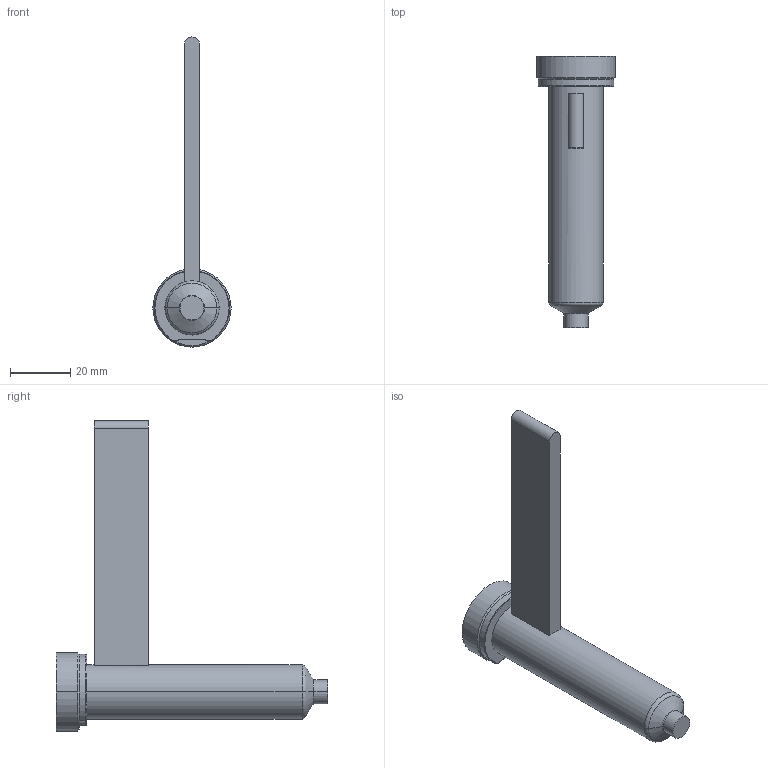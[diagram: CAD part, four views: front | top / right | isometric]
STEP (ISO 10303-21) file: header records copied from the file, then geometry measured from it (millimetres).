
FILE_DESCRIPTION((''),'2;1');
FILE_NAME('EO04_PG-FB_STD_080_COT','2024-02-19T11:21:22',('sundharh'),(''),'CREO PARAMETRIC BY PTC INC, 2023154','CREO PARAMETRIC BY PTC INC, 2023154','');
FILE_SCHEMA(('CONFIG_CONTROL_DESIGN'));
Length unit declared in the file: millimetre
Products named in the file (1): EO04_PG-FB_STD_080_COT
Bounding box: 26 x 90 x 103 mm (x, y, z)
Volume: 31471.5 mm3; surface area: 9769.8 mm2
Topology: 1 solids, 1 shells, 31 faces, 67 edges, 40 vertices
Faces by surface type: cylinder 11, plane 9, torus 7, cone 4
Entity records: 961 total; most frequent: CARTESIAN_POINT 228, DIRECTION 159, ORIENTED_EDGE 134, AXIS2_PLACEMENT_3D 67, EDGE_CURVE 67, VERTEX_POINT 40, CIRCLE 36, EDGE_LOOP 33
